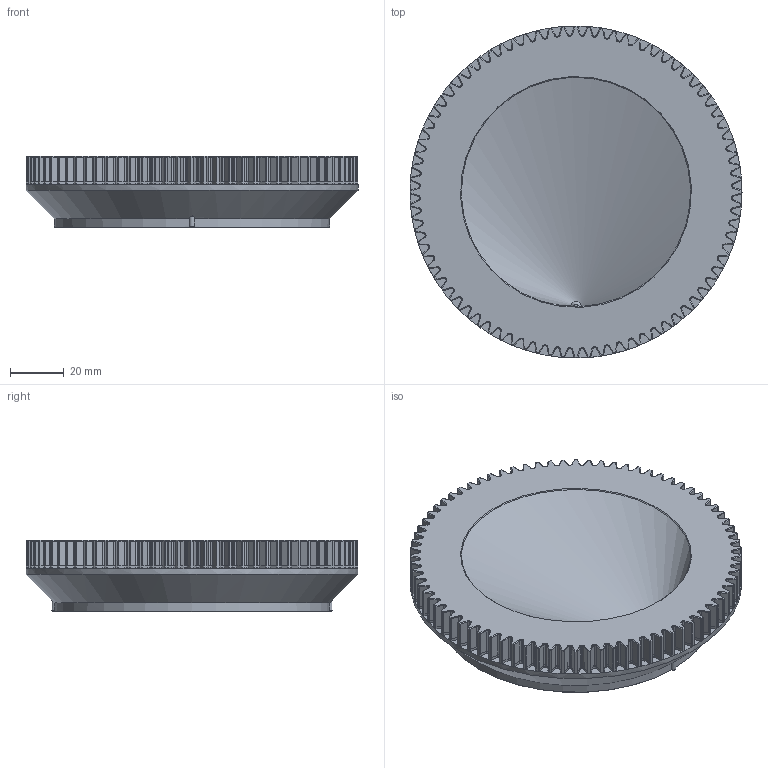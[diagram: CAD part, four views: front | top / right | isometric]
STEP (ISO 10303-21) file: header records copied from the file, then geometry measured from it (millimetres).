
FILE_DESCRIPTION(/* description */ ('Alibre Inc.'),/* implementation_level */ '2;1');
FILE_NAME(/* name */ 'export-813F2585-33CC-42BF-8C5C-E279EE28F0B7',/* time_stamp */ '2026-02-03T10:54:29+00:00',/* author */ (''),/* organization */ (''),/* preprocessor_version */ 'ST-DEVELOPER v17',/* originating_system */ 'Alibre',/* authorisation */ '');
FILE_SCHEMA (('CONFIG_CONTROL_DESIGN'));
Length unit declared in the file: millimetre
Products named in the file (1): InternalInvoluteGear
Bounding box: 123.09 x 123.09 x 26.49 mm (x, y, z)
Volume: 121786.4 mm3; surface area: 47954.8 mm2
Topology: 1 solids, 1 shells, 1829 faces, 4494 edges, 2515 vertices
Faces by surface type: cylinder 659, bspline 480, plane 356, cone 332, torus 2
Full cylindrical faces by diameter (mm): 4.3 x8, 57.1 x1, 85 x2, 87.3 x1, 96 x1, 123.1 x1
Entity records: 86513 total; most frequent: CARTESIAN_POINT 47138, ORIENTED_EDGE 8618, DIRECTION 7149, EDGE_CURVE 4309, AXIS2_PLACEMENT_3D 2513, VERTEX_POINT 2510, VECTOR 2479, LINE 2479
